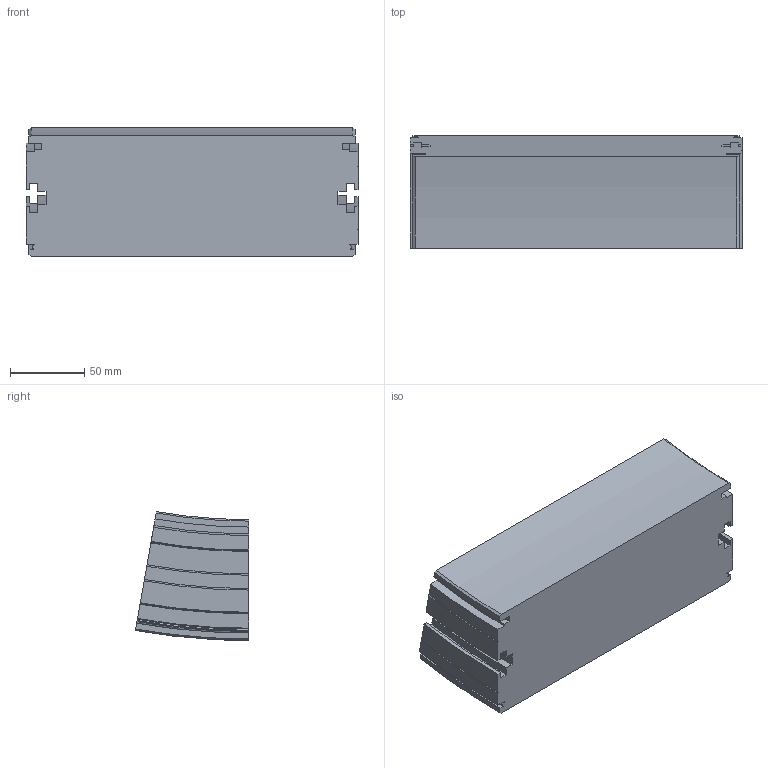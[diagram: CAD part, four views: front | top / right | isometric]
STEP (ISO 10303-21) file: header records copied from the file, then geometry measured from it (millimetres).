
FILE_DESCRIPTION(/* description */ ('VERTIKALKURVA S220 R400'),/* implementation_level */ '2;1');
FILE_NAME(/* name */ '\\carryline.intra\privat\users\mathias\Desktop\Tillfälliga filer\220-5645+220-2000-NER-01.stp',/* time_stamp */ '2018-11-29T13:21:40+01:00',/* author */ ('MD'),/* organization */ ('CARRYLINE'),/* preprocessor_version */ 'ST-DEVELOPER v17',/* originating_system */ 'Autodesk Inventor 2018',/* authorisation */ '');
FILE_SCHEMA (('AUTOMOTIVE_DESIGN { 1 0 10303 214 3 1 1 }'));
Length unit declared in the file: millimetre
Products named in the file (1): 220-5645+220-2000-NER-01
Bounding box: 224 x 76.32 x 86.94 mm (x, y, z)
Volume: 1231895 mm3; surface area: 87749.9 mm2
Topology: 1 solids, 1 shells, 113 faces, 318 edges, 212 vertices
Faces by surface type: plane 48, cylinder 31, bspline 14, cone 14, torus 6
Entity records: 8355 total; most frequent: CARTESIAN_POINT 5387, ORIENTED_EDGE 636, DIRECTION 576, EDGE_CURVE 318, VERTEX_POINT 212, AXIS2_PLACEMENT_3D 199, LINE 178, VECTOR 178
